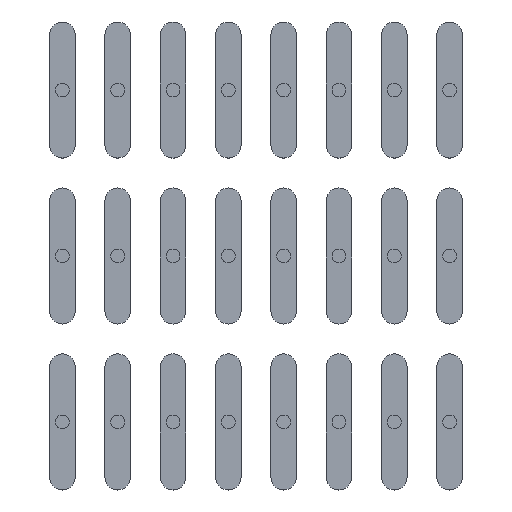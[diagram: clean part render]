
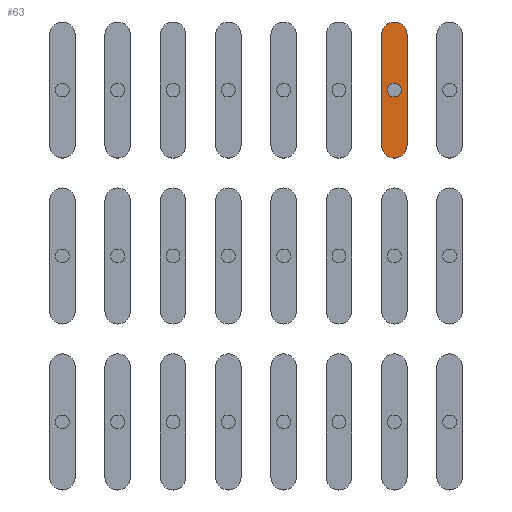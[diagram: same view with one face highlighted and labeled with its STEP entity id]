
A CAD part, top view. The second image highlights one B-rep face of the part: STEP entity #63.
In plain terms, the highlighted planar face has unit normal (0, 0, 1).
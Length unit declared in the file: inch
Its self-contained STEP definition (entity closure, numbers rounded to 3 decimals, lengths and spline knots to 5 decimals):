
#12 = EDGE_CURVE ( 'NONE', #159, #157, #110, .T. ) ;
#13 = EDGE_LOOP ( 'NONE', ( #64, #69, #163, #70 ) ) ;
#58 = EDGE_CURVE ( 'NONE', #157, #159, #327, .T. ) ;
#59 = EDGE_CURVE ( 'NONE', #60, #61, #252, .T. ) ;
#60 = VERTEX_POINT ( 'NONE', #169 ) ;
#61 = VERTEX_POINT ( 'NONE', #168 ) ;
#63 = ADVANCED_FACE ( 'NONE', ( #167, #166 ), #170, .T. ) ;
#64 = ORIENTED_EDGE ( 'NONE', *, *, #66, .F. ) ;
#66 = EDGE_CURVE ( 'NONE', #61, #68, #312, .T. ) ;
#67 = EDGE_LOOP ( 'NONE', ( #161, #162 ) ) ;
#68 = VERTEX_POINT ( 'NONE', #307 ) ;
#69 = ORIENTED_EDGE ( 'NONE', *, *, #59, .F. ) ;
#70 = ORIENTED_EDGE ( 'NONE', *, *, #71, .F. ) ;
#71 = EDGE_CURVE ( 'NONE', #68, #165, #306, .T. ) ;
#106 = DIRECTION ( 'NONE',  ( -1., 0., 0. ) ) ;
#107 = DIRECTION ( 'NONE',  ( 0., 0., -1. ) ) ;
#108 = CARTESIAN_POINT ( 'NONE',  ( -0.385, 0., -5. ) ) ;
#109 = AXIS2_PLACEMENT_3D ( 'NONE', #108, #107, #106 ) ;
#110 = CIRCLE ( 'NONE', #109, 0.0625 ) ;
#157 = VERTEX_POINT ( 'NONE', #254 ) ;
#159 = VERTEX_POINT ( 'NONE', #253 ) ;
#161 = ORIENTED_EDGE ( 'NONE', *, *, #12, .T. ) ;
#162 = ORIENTED_EDGE ( 'NONE', *, *, #58, .T. ) ;
#163 = ORIENTED_EDGE ( 'NONE', *, *, #164, .F. ) ;
#164 = EDGE_CURVE ( 'NONE', #165, #60, #185, .T. ) ;
#165 = VERTEX_POINT ( 'NONE', #180 ) ;
#166 = FACE_BOUND ( 'NONE', #67, .T. ) ;
#167 = FACE_OUTER_BOUND ( 'NONE', #13, .T. ) ;
#168 = CARTESIAN_POINT ( 'NONE',  ( -0.27, -0.5, -5. ) ) ;
#169 = CARTESIAN_POINT ( 'NONE',  ( -0.27, 0.5, -5. ) ) ;
#170 = PLANE ( 'NONE',  #373 ) ;
#180 = CARTESIAN_POINT ( 'NONE',  ( -0.5, 0.5, -5. ) ) ;
#181 = DIRECTION ( 'NONE',  ( 1., 0., 0. ) ) ;
#182 = DIRECTION ( 'NONE',  ( 0., 0., -1. ) ) ;
#183 = CARTESIAN_POINT ( 'NONE',  ( -0.385, 0.5, -5. ) ) ;
#184 = AXIS2_PLACEMENT_3D ( 'NONE', #183, #182, #181 ) ;
#185 = CIRCLE ( 'NONE', #184, 0.115 ) ;
#186 = DIRECTION ( 'NONE',  ( -1., 0., 0. ) ) ;
#246 = CARTESIAN_POINT ( 'NONE',  ( -0.385, 0., -5. ) ) ;
#249 = DIRECTION ( 'NONE',  ( 0., -1., 0. ) ) ;
#250 = VECTOR ( 'NONE', #249, 39.37008 ) ;
#251 = CARTESIAN_POINT ( 'NONE',  ( -0.27, -0.5, -5. ) ) ;
#252 = LINE ( 'NONE', #251, #250 ) ;
#253 = CARTESIAN_POINT ( 'NONE',  ( -0.3225, 0., -5. ) ) ;
#254 = CARTESIAN_POINT ( 'NONE',  ( -0.4475, 0., -5. ) ) ;
#264 = DIRECTION ( 'NONE',  ( 0., 1., 0. ) ) ;
#265 = VECTOR ( 'NONE', #264, 39.37008 ) ;
#266 = CARTESIAN_POINT ( 'NONE',  ( -0.5, -0.5, -5. ) ) ;
#306 = LINE ( 'NONE', #266, #265 ) ;
#307 = CARTESIAN_POINT ( 'NONE',  ( -0.5, -0.5, -5. ) ) ;
#308 = DIRECTION ( 'NONE',  ( 1., 0., 0. ) ) ;
#309 = DIRECTION ( 'NONE',  ( 0., 0., -1. ) ) ;
#310 = CARTESIAN_POINT ( 'NONE',  ( -0.385, -0.5, -5. ) ) ;
#311 = AXIS2_PLACEMENT_3D ( 'NONE', #310, #309, #308 ) ;
#312 = CIRCLE ( 'NONE', #311, 0.115 ) ;
#325 = DIRECTION ( 'NONE',  ( 0., 0., -1. ) ) ;
#326 = AXIS2_PLACEMENT_3D ( 'NONE', #246, #325, #186 ) ;
#327 = CIRCLE ( 'NONE', #326, 0.0625 ) ;
#370 = DIRECTION ( 'NONE',  ( 1., 0., 0. ) ) ;
#371 = DIRECTION ( 'NONE',  ( 0., 0., 1. ) ) ;
#372 = CARTESIAN_POINT ( 'NONE',  ( -0.385, -0.5, -5. ) ) ;
#373 = AXIS2_PLACEMENT_3D ( 'NONE', #372, #371, #370 ) ;
